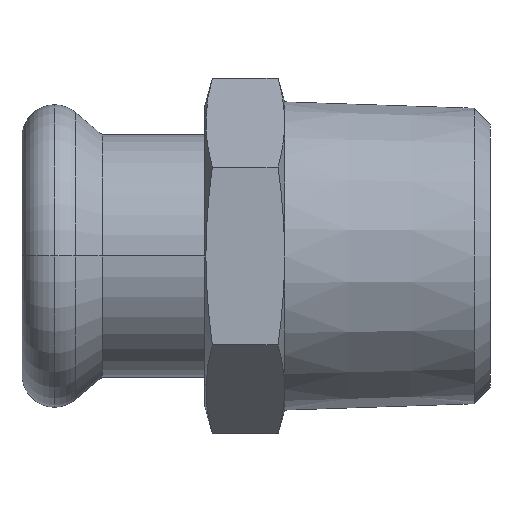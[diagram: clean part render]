
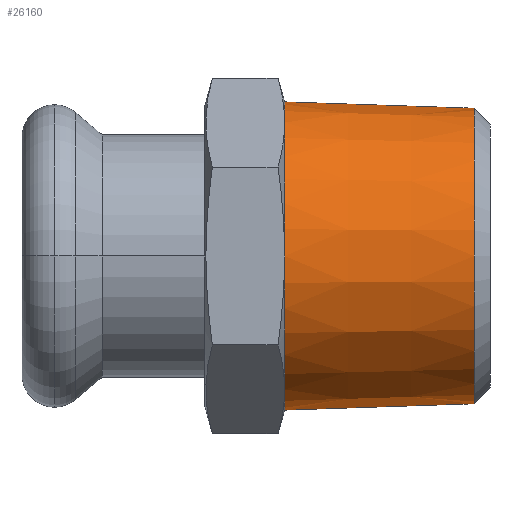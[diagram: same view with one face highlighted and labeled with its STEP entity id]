
A CAD part, front view. The second image highlights one B-rep face of the part: STEP entity #26160.
In plain terms, the highlighted conical face has half-angle 1.909 degrees and reference radius 13.5 mm.
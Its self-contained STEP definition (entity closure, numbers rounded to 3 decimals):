
#520=CARTESIAN_POINT('',(-52.97,-198.006,
0.));
#530=DIRECTION('',(-1.,0.,0.));
#540=DIRECTION('',(0.,0.,1.));
#550=AXIS2_PLACEMENT_3D('',#520,#530,#540);
#560=CIRCLE('',#550,12.947);
#590=CARTESIAN_POINT('',(-52.97,-198.006,-12.947
));
#600=VERTEX_POINT('',#590);
#880=CARTESIAN_POINT('',(-52.97,-198.006,12.947)
);
#890=VERTEX_POINT('',#880);
#970=CARTESIAN_POINT('',(-69.571,-198.006,
0.));
#980=DIRECTION('',(-1.,0.,0.));
#990=DIRECTION('',(0.,0.,1.));
#1000=AXIS2_PLACEMENT_3D('',#970,#980,#990);
#1010=CONICAL_SURFACE('',#1000,13.5,0.033);
#1020=CARTESIAN_POINT('',(-69.571,-198.006,13.5));
#1030=DIRECTION('',(-0.999,0.,0.033));
#1040=VECTOR('',#1030,1.);
#1050=LINE('',#1020,#1040);
#1060=CARTESIAN_POINT('',(-69.571,-198.006,13.5));
#1070=VERTEX_POINT('',#1060);
#1080=EDGE_CURVE('',#890,#1070,#1050,.T.);
#1100=CARTESIAN_POINT('',(-69.571,-198.006,
0.));
#1110=DIRECTION('',(-1.,0.,0.));
#1120=DIRECTION('',(0.,0.,1.));
#1130=AXIS2_PLACEMENT_3D('',#1100,#1110,#1120);
#1140=CIRCLE('',#1130,13.5);
#1270=CARTESIAN_POINT('',(-69.571,-198.006,-13.5));
#1280=VERTEX_POINT('',#1270);
#1310=CARTESIAN_POINT('',(-69.571,-198.006,-13.5));
#1320=DIRECTION('',(-0.999,0.,-0.033));
#1330=VECTOR('',#1320,1.);
#1340=LINE('',#1310,#1330);
#1350=EDGE_CURVE('',#600,#1280,#1340,.T.);
#5660=CARTESIAN_POINT('',(-69.571,-204.756,
-11.691));
#5670=VERTEX_POINT('',#5660);
#7500=CARTESIAN_POINT('',(-69.571,-211.506,
0.));
#7510=VERTEX_POINT('',#7500);
#10150=CARTESIAN_POINT('',(-69.571,-204.756,
11.691));
#10160=VERTEX_POINT('',#10150);
#10730=EDGE_CURVE('',#7510,#10160,#1140,.T.);
#10800=EDGE_CURVE('',#10160,#1070,#1140,.T.);
#10990=EDGE_CURVE('',#5670,#7510,#1140,.T.);
#11060=EDGE_CURVE('',#1280,#5670,#1140,.T.);
#25050=EDGE_CURVE('',#600,#890,#560,.T.);
#26070=ORIENTED_EDGE('',*,*,#25050,.T.);
#26080=ORIENTED_EDGE('',*,*,#1350,.F.);
#26090=ORIENTED_EDGE('',*,*,#11060,.F.);
#26100=ORIENTED_EDGE('',*,*,#10990,.F.);
#26110=ORIENTED_EDGE('',*,*,#10730,.F.);
#26120=ORIENTED_EDGE('',*,*,#10800,.F.);
#26130=ORIENTED_EDGE('',*,*,#1080,.T.);
#26140=EDGE_LOOP('',(#26130,#26120,#26110,#26100,#26090,#26080,#26070));
#26150=FACE_OUTER_BOUND('',#26140,.T.);
#26160=ADVANCED_FACE('',(#26150),#1010,.T.);
